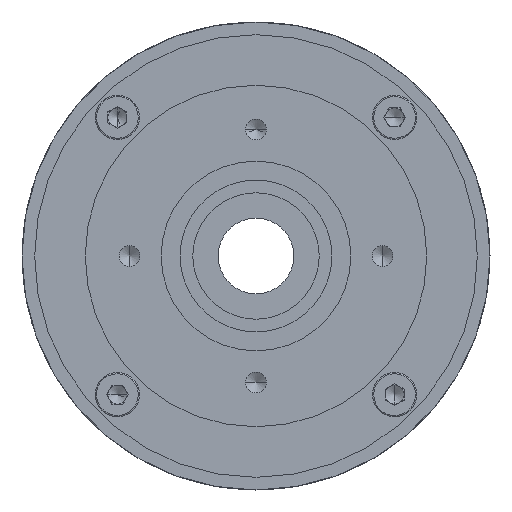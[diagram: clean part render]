
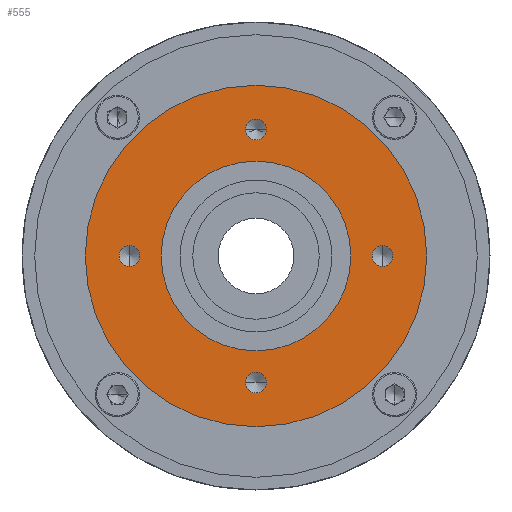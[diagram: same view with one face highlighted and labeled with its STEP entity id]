
A CAD part, left-side view. The second image highlights one B-rep face of the part: STEP entity #555.
In plain terms, the highlighted planar face has unit normal (-1, 0, 0).
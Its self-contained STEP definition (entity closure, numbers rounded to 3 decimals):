
#447 = EDGE_CURVE ( 'NONE', #21814, #25511, #19084, .T. ) ;
#555 = ADVANCED_FACE ( 'NONE', ( #33736, #26824, #24798, #32936, #18257, #4838 ), #16482, .T. ) ;
#571 = AXIS2_PLACEMENT_3D ( 'NONE', #21466, #26830, #21924 ) ;
#852 = CARTESIAN_POINT ( 'NONE',  ( 2., 0., 0. ) ) ;
#919 = ORIENTED_EDGE ( 'NONE', *, *, #1134, .T. ) ;
#1134 = EDGE_CURVE ( 'NONE', #31149, #29720, #13346, .T. ) ;
#1415 = DIRECTION ( 'NONE',  ( 0., 0., 1. ) ) ;
#1883 = DIRECTION ( 'NONE',  ( 0., 0., 1. ) ) ;
#2267 = VERTEX_POINT ( 'NONE', #13410 ) ;
#2638 = AXIS2_PLACEMENT_3D ( 'NONE', #3575, #21790, #16667 ) ;
#2714 = EDGE_LOOP ( 'NONE', ( #27818, #16826 ) ) ;
#2978 = ORIENTED_EDGE ( 'NONE', *, *, #19470, .F. ) ;
#3513 = CARTESIAN_POINT ( 'NONE',  ( 2., 20., 0. ) ) ;
#3575 = CARTESIAN_POINT ( 'NONE',  ( 2., 0., 0. ) ) ;
#4838 = FACE_BOUND ( 'NONE', #2714, .T. ) ;
#5946 = EDGE_CURVE ( 'NONE', #13213, #33571, #25824, .T. ) ;
#6075 = EDGE_CURVE ( 'NONE', #31456, #2267, #9922, .T. ) ;
#6120 = DIRECTION ( 'NONE',  ( 0., 0., 1. ) ) ;
#6460 = VERTEX_POINT ( 'NONE', #14157 ) ;
#6505 = CIRCLE ( 'NONE', #571, 1.65 ) ;
#6961 = EDGE_LOOP ( 'NONE', ( #12492, #16588 ) ) ;
#7537 = VERTEX_POINT ( 'NONE', #29952 ) ;
#7637 = ORIENTED_EDGE ( 'NONE', *, *, #6075, .T. ) ;
#7958 = EDGE_LOOP ( 'NONE', ( #919, #13953 ) ) ;
#8532 = ORIENTED_EDGE ( 'NONE', *, *, #15765, .T. ) ;
#9369 = VERTEX_POINT ( 'NONE', #16660 ) ;
#9700 = CARTESIAN_POINT ( 'NONE',  ( 2., 20., 0. ) ) ;
#9838 = AXIS2_PLACEMENT_3D ( 'NONE', #9700, #22461, #22695 ) ;
#9887 = AXIS2_PLACEMENT_3D ( 'NONE', #3513, #19110, #6120 ) ;
#9922 = CIRCLE ( 'NONE', #22557, 1.65 ) ;
#10378 = CARTESIAN_POINT ( 'NONE',  ( 2., 0., 0. ) ) ;
#11384 = AXIS2_PLACEMENT_3D ( 'NONE', #25032, #22529, #20021 ) ;
#11663 = EDGE_CURVE ( 'NONE', #29720, #31149, #6505, .T. ) ;
#11753 = AXIS2_PLACEMENT_3D ( 'NONE', #32734, #24667, #1415 ) ;
#12492 = ORIENTED_EDGE ( 'NONE', *, *, #29908, .T. ) ;
#12538 = AXIS2_PLACEMENT_3D ( 'NONE', #30586, #20004, #1883 ) ;
#12911 = CIRCLE ( 'NONE', #15715, 1.65 ) ;
#13213 = VERTEX_POINT ( 'NONE', #13527 ) ;
#13285 = CARTESIAN_POINT ( 'NONE',  ( 2., -20., -1.65 ) ) ;
#13346 = CIRCLE ( 'NONE', #20108, 1.65 ) ;
#13410 = CARTESIAN_POINT ( 'NONE',  ( 2., 0., -18.35 ) ) ;
#13472 = DIRECTION ( 'NONE',  ( 1., 0., 0. ) ) ;
#13527 = CARTESIAN_POINT ( 'NONE',  ( 2., 0., 15. ) ) ;
#13953 = ORIENTED_EDGE ( 'NONE', *, *, #11663, .T. ) ;
#14157 = CARTESIAN_POINT ( 'NONE',  ( 2., 0., -27. ) ) ;
#14297 = CIRCLE ( 'NONE', #9887, 1.65 ) ;
#14420 = AXIS2_PLACEMENT_3D ( 'NONE', #852, #26948, #19211 ) ;
#15641 = CARTESIAN_POINT ( 'NONE',  ( 2., 0., -20. ) ) ;
#15715 = AXIS2_PLACEMENT_3D ( 'NONE', #30447, #33169, #27936 ) ;
#15765 = EDGE_CURVE ( 'NONE', #2267, #31456, #12911, .T. ) ;
#16482 = PLANE ( 'NONE',  #14420 ) ;
#16588 = ORIENTED_EDGE ( 'NONE', *, *, #19724, .T. ) ;
#16660 = CARTESIAN_POINT ( 'NONE',  ( 2., 20., -1.65 ) ) ;
#16667 = DIRECTION ( 'NONE',  ( 0., 0., 1. ) ) ;
#16740 = CARTESIAN_POINT ( 'NONE',  ( 2., -20., 1.65 ) ) ;
#16826 = ORIENTED_EDGE ( 'NONE', *, *, #22446, .T. ) ;
#17481 = DIRECTION ( 'NONE',  ( 0., 0., 1. ) ) ;
#17590 = CARTESIAN_POINT ( 'NONE',  ( 2., 0., 21.65 ) ) ;
#17714 = EDGE_CURVE ( 'NONE', #9369, #7537, #20295, .T. ) ;
#17807 = DIRECTION ( 'NONE',  ( 0., 0., 1. ) ) ;
#18021 = EDGE_LOOP ( 'NONE', ( #28758, #2978 ) ) ;
#18257 = FACE_BOUND ( 'NONE', #7958, .T. ) ;
#18322 = CARTESIAN_POINT ( 'NONE',  ( 2., 0., 20. ) ) ;
#18650 = DIRECTION ( 'NONE',  ( 0., 0., 1. ) ) ;
#18985 = CIRCLE ( 'NONE', #11753, 27. ) ;
#19084 = CIRCLE ( 'NONE', #11384, 1.65 ) ;
#19110 = DIRECTION ( 'NONE',  ( 1., 0., 0. ) ) ;
#19211 = DIRECTION ( 'NONE',  ( 0., 0., 1. ) ) ;
#19470 = EDGE_CURVE ( 'NONE', #33571, #13213, #32266, .T. ) ;
#19724 = EDGE_CURVE ( 'NONE', #6460, #24769, #25340, .T. ) ;
#20004 = DIRECTION ( 'NONE',  ( -1., 0., 0. ) ) ;
#20021 = DIRECTION ( 'NONE',  ( 0., 0., 1. ) ) ;
#20108 = AXIS2_PLACEMENT_3D ( 'NONE', #33064, #22600, #17481 ) ;
#20295 = CIRCLE ( 'NONE', #9838, 1.65 ) ;
#20538 = EDGE_CURVE ( 'NONE', #7537, #9369, #14297, .T. ) ;
#20808 = DIRECTION ( 'NONE',  ( 1., 0., 0. ) ) ;
#21466 = CARTESIAN_POINT ( 'NONE',  ( 2., -20., 0. ) ) ;
#21469 = EDGE_LOOP ( 'NONE', ( #8532, #7637 ) ) ;
#21790 = DIRECTION ( 'NONE',  ( -1., 0., 0. ) ) ;
#21814 = VERTEX_POINT ( 'NONE', #17590 ) ;
#21924 = DIRECTION ( 'NONE',  ( 0., 0., 1. ) ) ;
#21981 = CARTESIAN_POINT ( 'NONE',  ( 2., 0., 18.35 ) ) ;
#22446 = EDGE_CURVE ( 'NONE', #25511, #21814, #26476, .T. ) ;
#22461 = DIRECTION ( 'NONE',  ( 1., 0., 0. ) ) ;
#22529 = DIRECTION ( 'NONE',  ( 1., 0., 0. ) ) ;
#22557 = AXIS2_PLACEMENT_3D ( 'NONE', #15641, #13472, #29177 ) ;
#22600 = DIRECTION ( 'NONE',  ( 1., 0., 0. ) ) ;
#22695 = DIRECTION ( 'NONE',  ( 0., 0., 1. ) ) ;
#23726 = CARTESIAN_POINT ( 'NONE',  ( 2., 0., 27. ) ) ;
#24667 = DIRECTION ( 'NONE',  ( -1., 0., 0. ) ) ;
#24769 = VERTEX_POINT ( 'NONE', #23726 ) ;
#24798 = FACE_BOUND ( 'NONE', #30236, .T. ) ;
#24955 = AXIS2_PLACEMENT_3D ( 'NONE', #18322, #20808, #18650 ) ;
#25032 = CARTESIAN_POINT ( 'NONE',  ( 2., 0., 20. ) ) ;
#25340 = CIRCLE ( 'NONE', #32774, 27. ) ;
#25511 = VERTEX_POINT ( 'NONE', #21981 ) ;
#25824 = CIRCLE ( 'NONE', #12538, 15. ) ;
#26476 = CIRCLE ( 'NONE', #24955, 1.65 ) ;
#26824 = FACE_OUTER_BOUND ( 'NONE', #6961, .T. ) ;
#26830 = DIRECTION ( 'NONE',  ( 1., 0., 0. ) ) ;
#26948 = DIRECTION ( 'NONE',  ( -1., 0., 0. ) ) ;
#27818 = ORIENTED_EDGE ( 'NONE', *, *, #447, .T. ) ;
#27936 = DIRECTION ( 'NONE',  ( 0., 0., 1. ) ) ;
#27995 = ORIENTED_EDGE ( 'NONE', *, *, #20538, .T. ) ;
#28599 = DIRECTION ( 'NONE',  ( -1., 0., 0. ) ) ;
#28758 = ORIENTED_EDGE ( 'NONE', *, *, #5946, .F. ) ;
#29177 = DIRECTION ( 'NONE',  ( 0., 0., 1. ) ) ;
#29720 = VERTEX_POINT ( 'NONE', #13285 ) ;
#29908 = EDGE_CURVE ( 'NONE', #24769, #6460, #18985, .T. ) ;
#29952 = CARTESIAN_POINT ( 'NONE',  ( 2., 20., 1.65 ) ) ;
#30236 = EDGE_LOOP ( 'NONE', ( #27995, #31020 ) ) ;
#30447 = CARTESIAN_POINT ( 'NONE',  ( 2., 0., -20. ) ) ;
#30510 = CARTESIAN_POINT ( 'NONE',  ( 2., 0., -21.65 ) ) ;
#30586 = CARTESIAN_POINT ( 'NONE',  ( 2., 0., 0. ) ) ;
#31020 = ORIENTED_EDGE ( 'NONE', *, *, #17714, .T. ) ;
#31149 = VERTEX_POINT ( 'NONE', #16740 ) ;
#31456 = VERTEX_POINT ( 'NONE', #30510 ) ;
#32022 = CARTESIAN_POINT ( 'NONE',  ( 2., 0., -15. ) ) ;
#32266 = CIRCLE ( 'NONE', #2638, 15. ) ;
#32734 = CARTESIAN_POINT ( 'NONE',  ( 2., 0., 0. ) ) ;
#32774 = AXIS2_PLACEMENT_3D ( 'NONE', #10378, #28599, #17807 ) ;
#32936 = FACE_BOUND ( 'NONE', #21469, .T. ) ;
#33064 = CARTESIAN_POINT ( 'NONE',  ( 2., -20., 0. ) ) ;
#33169 = DIRECTION ( 'NONE',  ( 1., 0., 0. ) ) ;
#33571 = VERTEX_POINT ( 'NONE', #32022 ) ;
#33736 = FACE_BOUND ( 'NONE', #18021, .T. ) ;
